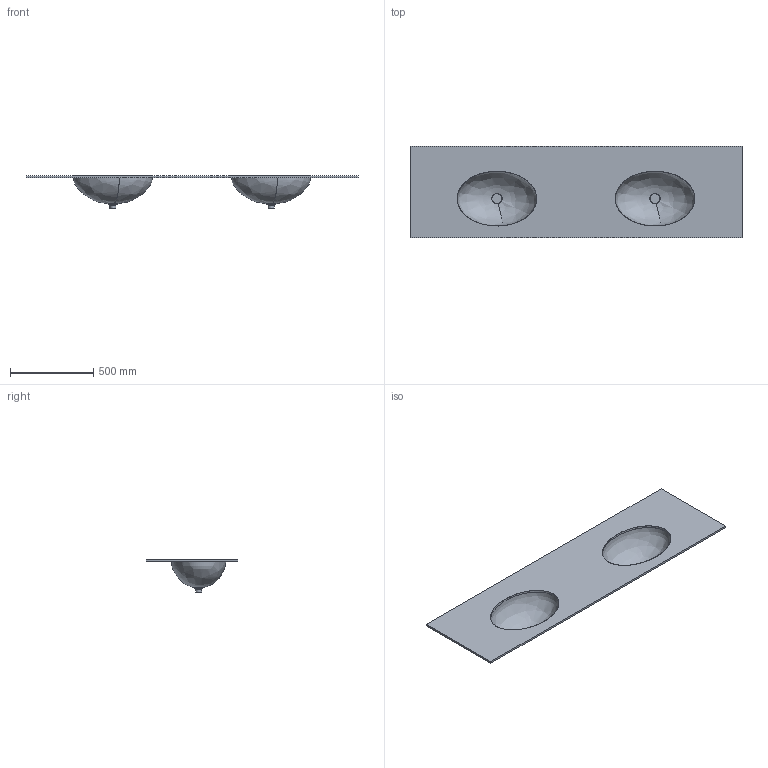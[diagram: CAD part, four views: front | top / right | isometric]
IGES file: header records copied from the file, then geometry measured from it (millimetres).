
Start section:  Autodesk Design for Windows version 2010 IGES version 5.3  Autodesk Design for Windows version 2010 IGES version 5.3
Global section: file name: D:\Desktop\GIOVANNI\SCHEDE PRODOTTO\PIANI LAVABO\ELIPSE\3D\MOMA DESIGN_PIANI LAVABO_ELIPSE MODULE DOUBLE.igs; native system: Rhinoceros ( Jan 17 2018 ); preprocessor: Trout Lake IGES 012 Jan 17 2018; date: 230606.115809; units: millimetre
Bounding box: 2000 x 550 x 196.97 mm (x, y, z)
Surface area: 2271391.2 mm2 (no closed solid volume)
Topology: 0 solids, 0 shells, 72 faces, 370 edges, 356 vertices
Faces by surface type: bspline 72
